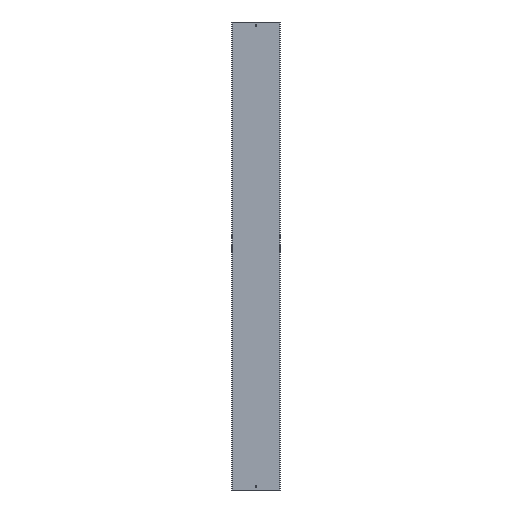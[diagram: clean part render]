
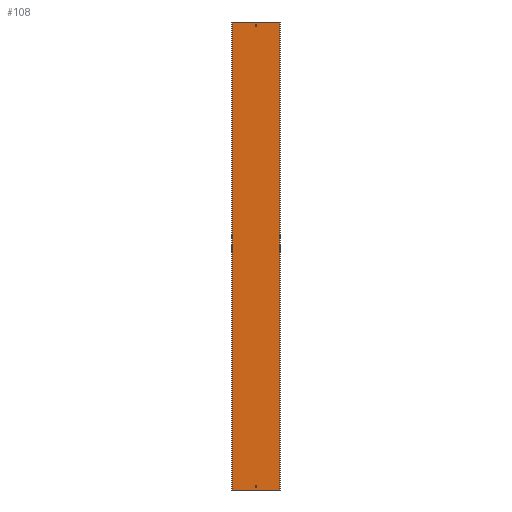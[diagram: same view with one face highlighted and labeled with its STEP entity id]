
A CAD part, front view. The second image highlights one B-rep face of the part: STEP entity #108.
In plain terms, the highlighted planar face has unit normal (0, -1, 0).
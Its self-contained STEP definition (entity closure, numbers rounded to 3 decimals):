
#1 = EDGE_CURVE ( 'NONE', #483, #163, #303, .T. ) ;
#9 = VECTOR ( 'NONE', #12, 1000. ) ;
#12 = DIRECTION ( 'NONE',  ( 1., 0., 0. ) ) ;
#14 = LINE ( 'NONE', #319, #378 ) ;
#21 = CARTESIAN_POINT ( 'NONE',  ( 3.25, -1.5, -979. ) ) ;
#22 = CARTESIAN_POINT ( 'NONE',  ( -3.25, -1.5, 979. ) ) ;
#24 = VERTEX_POINT ( 'NONE', #541 ) ;
#32 = VECTOR ( 'NONE', #333, 1000. ) ;
#40 = CARTESIAN_POINT ( 'NONE',  ( -3.25, -1.5, -988. ) ) ;
#56 = CARTESIAN_POINT ( 'NONE',  ( 3.25, -1.5, 979. ) ) ;
#57 = EDGE_CURVE ( 'NONE', #24, #105, #321, .T. ) ;
#60 = AXIS2_PLACEMENT_3D ( 'NONE', #238, #107, #507 ) ;
#66 = CARTESIAN_POINT ( 'NONE',  ( -103.5, -1.5, 979. ) ) ;
#75 = CARTESIAN_POINT ( 'NONE',  ( -3.25, -1.5, 1000. ) ) ;
#80 = EDGE_CURVE ( 'NONE', #589, #251, #561, .T. ) ;
#91 = CARTESIAN_POINT ( 'NONE',  ( -3.25, -1.5, -979. ) ) ;
#105 = VERTEX_POINT ( 'NONE', #330 ) ;
#107 = DIRECTION ( 'NONE',  ( 0., -1., 0. ) ) ;
#108 = ADVANCED_FACE ( 'NONE', ( #194, #191, #504 ), #156, .T. ) ;
#114 = DIRECTION ( 'NONE',  ( -1., 0., 0. ) ) ;
#117 = LINE ( 'NONE', #419, #204 ) ;
#121 = EDGE_CURVE ( 'NONE', #163, #591, #14, .T. ) ;
#130 = ORIENTED_EDGE ( 'NONE', *, *, #1, .T. ) ;
#135 = EDGE_CURVE ( 'NONE', #591, #263, #510, .T. ) ;
#146 = ORIENTED_EDGE ( 'NONE', *, *, #428, .T. ) ;
#147 = EDGE_CURVE ( 'NONE', #552, #248, #117, .T. ) ;
#150 = CARTESIAN_POINT ( 'NONE',  ( -103.5, -1.5, -988. ) ) ;
#156 = PLANE ( 'NONE',  #60 ) ;
#160 = CARTESIAN_POINT ( 'NONE',  ( -103.5, -1.5, 1000. ) ) ;
#163 = VERTEX_POINT ( 'NONE', #21 ) ;
#178 = LINE ( 'NONE', #353, #315 ) ;
#191 = FACE_OUTER_BOUND ( 'NONE', #449, .T. ) ;
#194 = FACE_BOUND ( 'NONE', #427, .T. ) ;
#196 = DIRECTION ( 'NONE',  ( 0., 0., -1. ) ) ;
#204 = VECTOR ( 'NONE', #464, 1000. ) ;
#226 = ORIENTED_EDGE ( 'NONE', *, *, #80, .F. ) ;
#231 = VECTOR ( 'NONE', #486, 1000. ) ;
#238 = CARTESIAN_POINT ( 'NONE',  ( -103.5, -1.5, 1000. ) ) ;
#239 = CARTESIAN_POINT ( 'NONE',  ( -3.25, -1.5, 988. ) ) ;
#248 = VERTEX_POINT ( 'NONE', #549 ) ;
#251 = VERTEX_POINT ( 'NONE', #56 ) ;
#263 = VERTEX_POINT ( 'NONE', #40 ) ;
#274 = ORIENTED_EDGE ( 'NONE', *, *, #372, .T. ) ;
#282 = VECTOR ( 'NONE', #343, 1000. ) ;
#294 = LINE ( 'NONE', #473, #423 ) ;
#296 = VERTEX_POINT ( 'NONE', #239 ) ;
#303 = LINE ( 'NONE', #399, #231 ) ;
#304 = DIRECTION ( 'NONE',  ( -1., 0., 0. ) ) ;
#315 = VECTOR ( 'NONE', #538, 1000. ) ;
#319 = CARTESIAN_POINT ( 'NONE',  ( 3.25, -1.5, 1000. ) ) ;
#321 = LINE ( 'NONE', #366, #523 ) ;
#330 = CARTESIAN_POINT ( 'NONE',  ( -102., -1.5, -1000. ) ) ;
#332 = CARTESIAN_POINT ( 'NONE',  ( 3.25, -1.5, 988. ) ) ;
#333 = DIRECTION ( 'NONE',  ( -1., 0., 0. ) ) ;
#343 = DIRECTION ( 'NONE',  ( -1., 0., 0. ) ) ;
#345 = EDGE_CURVE ( 'NONE', #296, #589, #466, .T. ) ;
#349 = ORIENTED_EDGE ( 'NONE', *, *, #553, .F. ) ;
#353 = CARTESIAN_POINT ( 'NONE',  ( 3.25, -1.5, 1000. ) ) ;
#361 = VECTOR ( 'NONE', #573, 1000. ) ;
#365 = DIRECTION ( 'NONE',  ( 0., 0., -1. ) ) ;
#366 = CARTESIAN_POINT ( 'NONE',  ( -102., -1.5, 1000. ) ) ;
#372 = EDGE_CURVE ( 'NONE', #552, #24, #424, .T. ) ;
#378 = VECTOR ( 'NONE', #457, 1000. ) ;
#382 = ORIENTED_EDGE ( 'NONE', *, *, #455, .F. ) ;
#384 = ORIENTED_EDGE ( 'NONE', *, *, #121, .T. ) ;
#390 = ORIENTED_EDGE ( 'NONE', *, *, #57, .T. ) ;
#394 = EDGE_LOOP ( 'NONE', ( #501, #146, #130, #384 ) ) ;
#399 = CARTESIAN_POINT ( 'NONE',  ( -103.5, -1.5, -979. ) ) ;
#412 = ORIENTED_EDGE ( 'NONE', *, *, #345, .F. ) ;
#419 = CARTESIAN_POINT ( 'NONE',  ( 102., -1.5, 1000. ) ) ;
#423 = VECTOR ( 'NONE', #304, 1000. ) ;
#424 = LINE ( 'NONE', #160, #32 ) ;
#427 = EDGE_LOOP ( 'NONE', ( #412, #382, #349, #226 ) ) ;
#428 = EDGE_CURVE ( 'NONE', #263, #483, #505, .T. ) ;
#449 = EDGE_LOOP ( 'NONE', ( #492, #479, #274, #390 ) ) ;
#455 = EDGE_CURVE ( 'NONE', #584, #296, #568, .T. ) ;
#457 = DIRECTION ( 'NONE',  ( 0., 0., -1. ) ) ;
#460 = VECTOR ( 'NONE', #114, 1000. ) ;
#464 = DIRECTION ( 'NONE',  ( 0., 0., -1. ) ) ;
#466 = LINE ( 'NONE', #502, #559 ) ;
#473 = CARTESIAN_POINT ( 'NONE',  ( -103.5, -1.5, -1000. ) ) ;
#477 = EDGE_CURVE ( 'NONE', #248, #105, #294, .T. ) ;
#479 = ORIENTED_EDGE ( 'NONE', *, *, #147, .F. ) ;
#483 = VERTEX_POINT ( 'NONE', #91 ) ;
#486 = DIRECTION ( 'NONE',  ( 1., 0., 0. ) ) ;
#492 = ORIENTED_EDGE ( 'NONE', *, *, #477, .F. ) ;
#501 = ORIENTED_EDGE ( 'NONE', *, *, #135, .T. ) ;
#502 = CARTESIAN_POINT ( 'NONE',  ( -3.25, -1.5, 1000. ) ) ;
#504 = FACE_BOUND ( 'NONE', #394, .T. ) ;
#505 = LINE ( 'NONE', #75, #361 ) ;
#507 = DIRECTION ( 'NONE',  ( 0., 0., -1. ) ) ;
#510 = LINE ( 'NONE', #150, #460 ) ;
#518 = CARTESIAN_POINT ( 'NONE',  ( -103.5, -1.5, 988. ) ) ;
#523 = VECTOR ( 'NONE', #196, 1000. ) ;
#538 = DIRECTION ( 'NONE',  ( 0., 0., 1. ) ) ;
#541 = CARTESIAN_POINT ( 'NONE',  ( -102., -1.5, 1000. ) ) ;
#549 = CARTESIAN_POINT ( 'NONE',  ( 102., -1.5, -1000. ) ) ;
#552 = VERTEX_POINT ( 'NONE', #585 ) ;
#553 = EDGE_CURVE ( 'NONE', #251, #584, #178, .T. ) ;
#559 = VECTOR ( 'NONE', #365, 1000. ) ;
#561 = LINE ( 'NONE', #66, #9 ) ;
#568 = LINE ( 'NONE', #518, #282 ) ;
#571 = CARTESIAN_POINT ( 'NONE',  ( 3.25, -1.5, -988. ) ) ;
#573 = DIRECTION ( 'NONE',  ( 0., 0., 1. ) ) ;
#584 = VERTEX_POINT ( 'NONE', #332 ) ;
#585 = CARTESIAN_POINT ( 'NONE',  ( 102., -1.5, 1000. ) ) ;
#589 = VERTEX_POINT ( 'NONE', #22 ) ;
#591 = VERTEX_POINT ( 'NONE', #571 ) ;
